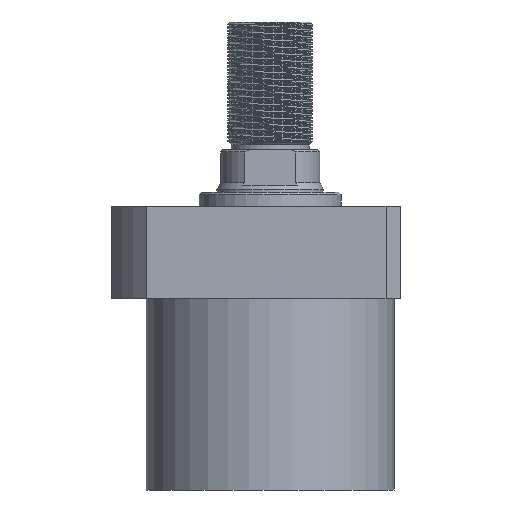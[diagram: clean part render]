
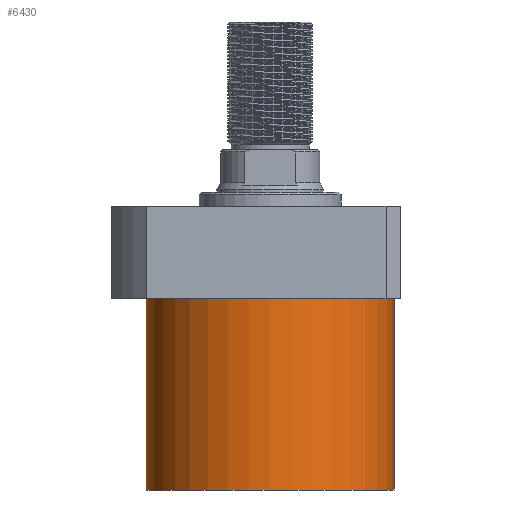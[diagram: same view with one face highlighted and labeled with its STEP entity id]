
A CAD part, front view. The second image highlights one B-rep face of the part: STEP entity #6430.
In plain terms, the highlighted cylindrical face has radius 52.5 mm (diameter 105 mm), a partial arc.
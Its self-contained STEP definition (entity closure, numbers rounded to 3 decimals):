
#374 = CARTESIAN_POINT ( 'NONE',  ( -52.5, 0., -100.5 ) ) ;
#455 = CARTESIAN_POINT ( 'NONE',  ( -52.5, 0., -100.5 ) ) ;
#560 = AXIS2_PLACEMENT_3D ( 'NONE', #6326, #2635, #6960 ) ;
#710 = EDGE_CURVE ( 'NONE', #5872, #6077, #4591, .T. ) ;
#808 = CARTESIAN_POINT ( 'NONE',  ( 52.5, 0., -100.5 ) ) ;
#842 = ORIENTED_EDGE ( 'NONE', *, *, #710, .F. ) ;
#888 = AXIS2_PLACEMENT_3D ( 'NONE', #5552, #1824, #6165 ) ;
#940 = DIRECTION ( 'NONE',  ( 1., 0., 0. ) ) ;
#1037 = ORIENTED_EDGE ( 'NONE', *, *, #2037, .T. ) ;
#1686 = CIRCLE ( 'NONE', #560, 52.5 ) ;
#1824 = DIRECTION ( 'NONE',  ( 0., 0., -1. ) ) ;
#2037 = EDGE_CURVE ( 'NONE', #5872, #4106, #3758, .T. ) ;
#2271 = CARTESIAN_POINT ( 'NONE',  ( 52.5, 0., -100.5 ) ) ;
#2603 = ORIENTED_EDGE ( 'NONE', *, *, #3149, .T. ) ;
#2635 = DIRECTION ( 'NONE',  ( 0., 0., -1. ) ) ;
#2773 = EDGE_CURVE ( 'NONE', #6077, #4857, #4712, .T. ) ;
#3149 = EDGE_CURVE ( 'NONE', #4106, #4857, #1686, .T. ) ;
#3558 = VECTOR ( 'NONE', #4204, 1000. ) ;
#3758 = LINE ( 'NONE', #2271, #3558 ) ;
#4083 = DIRECTION ( 'NONE',  ( 0., 0., 1. ) ) ;
#4106 = VERTEX_POINT ( 'NONE', #7178 ) ;
#4204 = DIRECTION ( 'NONE',  ( 0., 0., 1. ) ) ;
#4293 = CARTESIAN_POINT ( 'NONE',  ( -52.5, 0., -19.5 ) ) ;
#4348 = EDGE_LOOP ( 'NONE', ( #7044, #842, #1037, #2603 ) ) ;
#4531 = AXIS2_PLACEMENT_3D ( 'NONE', #7132, #4083, #940 ) ;
#4591 = CIRCLE ( 'NONE', #888, 52.5 ) ;
#4712 = LINE ( 'NONE', #455, #6146 ) ;
#4857 = VERTEX_POINT ( 'NONE', #4293 ) ;
#5552 = CARTESIAN_POINT ( 'NONE',  ( 0., 0., -100.5 ) ) ;
#5872 = VERTEX_POINT ( 'NONE', #808 ) ;
#6077 = VERTEX_POINT ( 'NONE', #374 ) ;
#6146 = VECTOR ( 'NONE', #7871, 1000. ) ;
#6165 = DIRECTION ( 'NONE',  ( -1., 0., 0. ) ) ;
#6326 = CARTESIAN_POINT ( 'NONE',  ( 0., 0., -19.5 ) ) ;
#6358 = CYLINDRICAL_SURFACE ( 'NONE', #4531, 52.5 ) ;
#6430 = ADVANCED_FACE ( 'NONE', ( #8002 ), #6358, .T. ) ;
#6960 = DIRECTION ( 'NONE',  ( 1., 0., 0. ) ) ;
#7044 = ORIENTED_EDGE ( 'NONE', *, *, #2773, .F. ) ;
#7132 = CARTESIAN_POINT ( 'NONE',  ( 0., 0., -100.5 ) ) ;
#7178 = CARTESIAN_POINT ( 'NONE',  ( 52.5, 0., -19.5 ) ) ;
#7871 = DIRECTION ( 'NONE',  ( 0., 0., 1. ) ) ;
#8002 = FACE_OUTER_BOUND ( 'NONE', #4348, .T. ) ;
